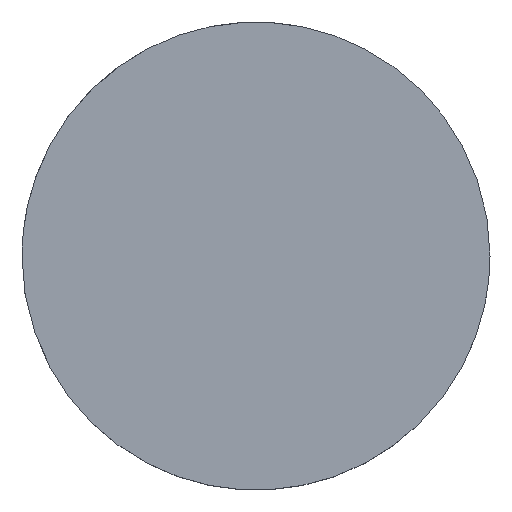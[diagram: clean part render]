
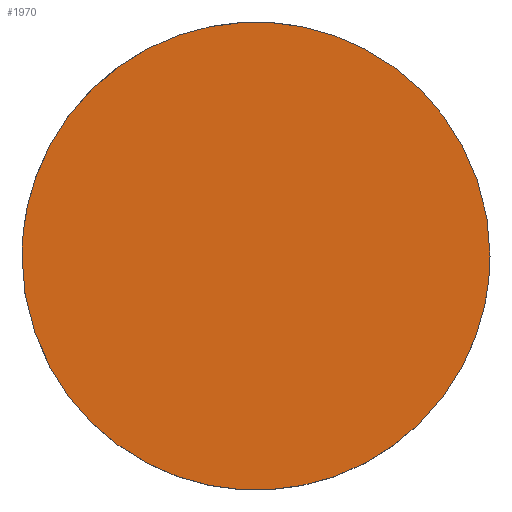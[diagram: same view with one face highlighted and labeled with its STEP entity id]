
A CAD part, top view. The second image highlights one B-rep face of the part: STEP entity #1970.
In plain terms, the highlighted planar face has unit normal (0, 0, 1).
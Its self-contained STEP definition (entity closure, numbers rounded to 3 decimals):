
#190 = CARTESIAN_POINT ('', (-10., 0., -13.999));
#200 = VERTEX_POINT ('', #190);
#260 = CARTESIAN_POINT ('', (10., 0., -13.999));
#270 = VERTEX_POINT ('', #260);
#280 = CARTESIAN_POINT ('', (10., 0., -13.999));
#290 = CARTESIAN_POINT ('', (10., 10., -13.999));
#300 = CARTESIAN_POINT ('', (0., 10., -13.999));
#310 = CARTESIAN_POINT ('', (-10., 10., -13.999));
#320 = CARTESIAN_POINT ('', (-10., 0., -13.999));
#330 = (
   BOUNDED_CURVE ()
   B_SPLINE_CURVE (2, (#280, #290, #300, #310, #320), .UNSPECIFIED., .F., .U.)
   B_SPLINE_CURVE_WITH_KNOTS ((3, 2, 3), (0., 1.571, 3.142), .UNSPECIFIED.)
   CURVE ()
   GEOMETRIC_REPRESENTATION_ITEM ()
   RATIONAL_B_SPLINE_CURVE ((1., 0.707, 1., 0.707, 1.))
   REPRESENTATION_ITEM ('')
);
#340 = EDGE_CURVE ('', #270, #200, #330, .T.);
#580 = CARTESIAN_POINT ('', (-10., 0., -13.999));
#590 = CARTESIAN_POINT ('', (-10., -10., -13.999));
#600 = CARTESIAN_POINT ('', (0., -10., -13.999));
#610 = CARTESIAN_POINT ('', (10., -10., -13.999));
#620 = CARTESIAN_POINT ('', (10., 0., -13.999));
#630 = (
   BOUNDED_CURVE ()
   B_SPLINE_CURVE (2, (#580, #590, #600, #610, #620), .UNSPECIFIED., .F., .U.)
   B_SPLINE_CURVE_WITH_KNOTS ((3, 2, 3), (3.142, 4.712, 6.283), .UNSPECIFIED.)
   CURVE ()
   GEOMETRIC_REPRESENTATION_ITEM ()
   RATIONAL_B_SPLINE_CURVE ((1., 0.707, 1., 0.707, 1.))
   REPRESENTATION_ITEM ('')
);
#640 = EDGE_CURVE ('', #200, #270, #630, .T.);
#1880 = ORIENTED_EDGE ('', *, *, #340, .T.);
#1890 = ORIENTED_EDGE ('', *, *, #640, .T.);
#1900 = EDGE_LOOP ('', (#1880, #1890));
#1910 = FACE_OUTER_BOUND ('', #1900, .T.);
#1920 = CARTESIAN_POINT ('', (0., 20.604, -13.999));
#1930 = DIRECTION ('', (0., 0., 1.));
#1940 = DIRECTION ('', (-0.707, -0.707, 0.));
#1950 = AXIS2_PLACEMENT_3D ('', #1920, #1930, #1940);
#1960 = PLANE ('', #1950);
#1970 = ADVANCED_FACE ('', (#1910), #1960, .T.);
